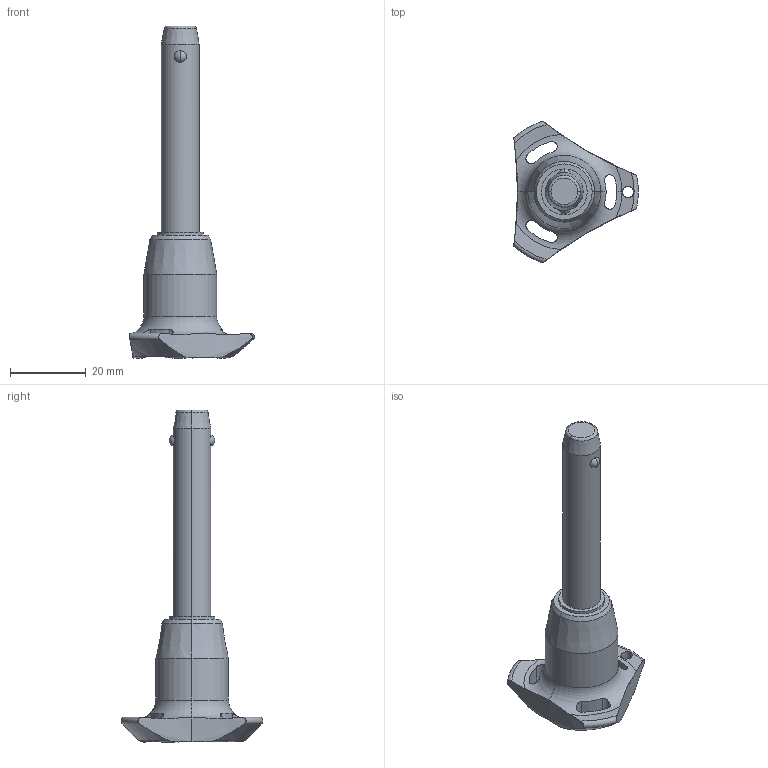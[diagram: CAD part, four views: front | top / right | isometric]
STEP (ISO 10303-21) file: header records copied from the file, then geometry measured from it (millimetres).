
FILE_DESCRIPTION (( 'STEP AP203' ), '1' );
FILE_NAME ('QR1724.M10-045-S.step', '2025-11-12T12:53:32', ( '' ), ( '' ), 'SwSTEP 2.0', 'SolidWorks 2019', '' );
FILE_SCHEMA (( 'CONFIG_CONTROL_DESIGN' ));
Length unit declared in the file: millimetre
Products named in the file (1): QR1724.M10-045-S
Bounding box: 33 x 37.51 x 87.9 mm (x, y, z)
Volume: 14614.2 mm3; surface area: 5578.1 mm2
Topology: 1 solids, 1 shells, 65 faces, 174 edges, 109 vertices
Faces by surface type: cylinder 30, cone 14, torus 11, sphere 6, plane 4
Entity records: 2758 total; most frequent: CARTESIAN_POINT 1085, ORIENTED_EDGE 348, DIRECTION 331, EDGE_CURVE 174, AXIS2_PLACEMENT_3D 147, VERTEX_POINT 109, CIRCLE 81, EDGE_LOOP 71
